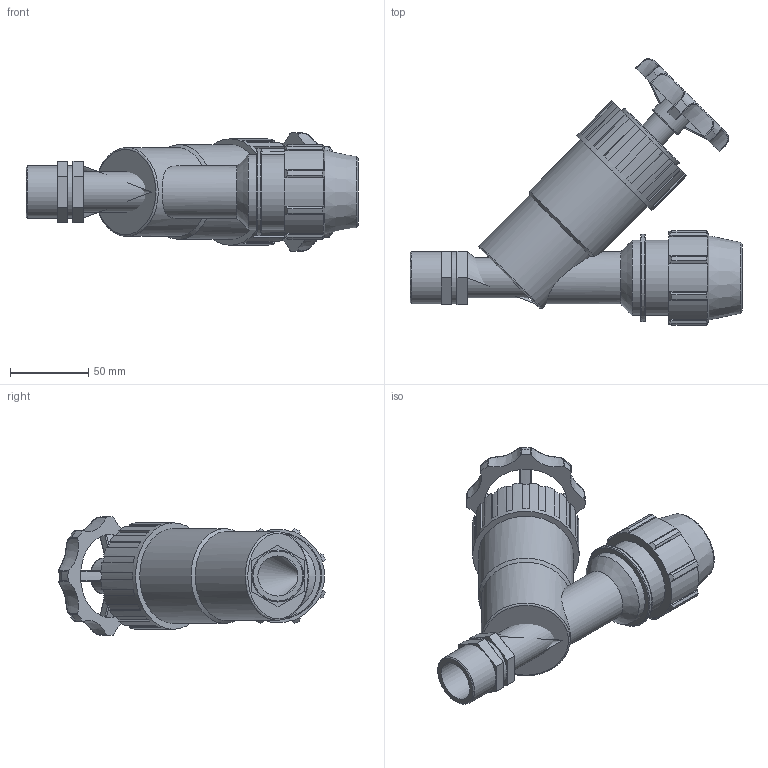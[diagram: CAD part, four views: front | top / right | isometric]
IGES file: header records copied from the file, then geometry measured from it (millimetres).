
Global section: file name: 03048320.ipt; native system: Autodesk Inventor 2015; preprocessor: unknown; author: KIM; date: 20180916.173734; units: millimetre
Bounding box: 212 x 169.95 x 75.59 mm (x, y, z)
Volume: 539993.8 mm3; surface area: 87593.8 mm2
Topology: 1 solids, 1 shells, 272 faces, 756 edges, 497 vertices
Faces by surface type: plane 130, cylinder 73, revolution 28, bspline 24, cone 17
Full cylindrical faces by diameter (mm): 18.144 x1, 22.68 x1, 33.249 x4, 48 x2, 49.896 x1, 55.68 x1, 56.7 x1, 60.48 x1, 68.04 x1
